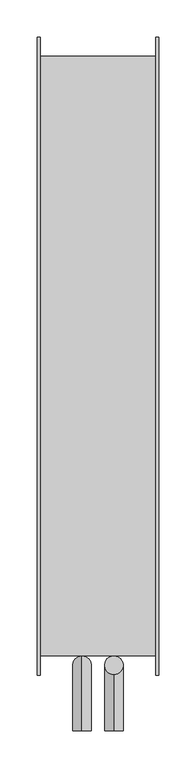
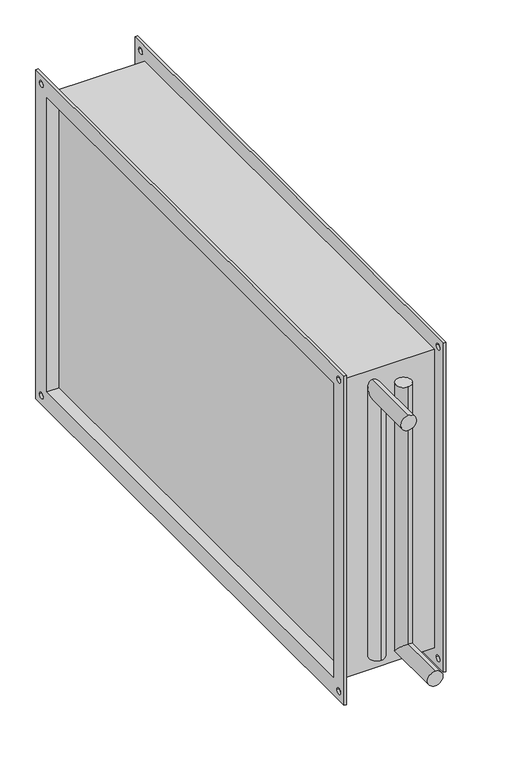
"""IFC4 building model written with IfcOpenShell, lengths in millimetres: proxy geometry, СВ_ВоздухонагревательВодяной_КанальныйПрямоугольный_200-1000_SPH-W : SPH-W-800x500/2."""

from ifc_helpers import new_model, si_unit, frame, origin, place, context, project, spatial, polyline, circle_curve, ellipse_curve, source, transform, mapped, element, save
from ifc_brep_helpers import plane_surface, cylinder_surface, revolved_surface, advanced_brep


def mechanical_equipment_5d4a23c0(model_context):
    return source(origin(), model_context, "Body", "AdvancedBrep", [
        advanced_brep(
        [(21.5, -404.0, 225.0), (21.5, -429.0, 225.0), (21.5, -404.0, -237.5), (21.5, -429.0, -212.5), (21.5, -505.0, -237.5), (21.5, -505.0, -212.5)],
        [
            (0, 1, circle_curve(frame((21.5, -416.5, 225.0), z_axis=(0.0, 0.0, 1.0), x_axis=(0.0, -1.0, 0.0)), 12.5)),
            (1, 0, circle_curve(frame((21.5, -416.5, 225.0), z_axis=(0.0, 0.0, 1.0), x_axis=(0.0, -1.0, 0.0)), 12.5)),
            (0, 2),
            (2, 3, ellipse_curve(frame((21.5, -416.5, -225.0), z_axis=(0.0, 0.7071067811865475, 0.7071067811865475), x_axis=(0.0, -0.7071067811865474, 0.7071067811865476)), 17.6776695, 12.5)),
            (3, 1),
            (3, 2, ellipse_curve(frame((21.5, -416.5, -225.0), z_axis=(0.0, 0.7071067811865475, 0.7071067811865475), x_axis=(0.0, -0.7071067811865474, 0.7071067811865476)), 17.6776695, 12.5)),
            (4, 5, circle_curve(frame((21.5, -505.0, -225.0), z_axis=(0.0, -1.0, 0.0), x_axis=(0.0, 0.0, 1.0)), 12.5)),
            (5, 4, circle_curve(frame((21.5, -505.0, -225.0), z_axis=(0.0, -1.0, 0.0), x_axis=(0.0, 0.0, 1.0)), 12.5)),
            (2, 4),
            (5, 3),
        ],
        [
            plane_surface(frame((21.5, -416.5, 225.0), z_axis=(0.0, 0.0, 1.0), x_axis=(-1.0, 0.0, 0.0))),
            cylinder_surface(frame((21.5, -416.5, 225.0), z_axis=(0.0, 0.0, 1.0), x_axis=(0.0, -1.0, 0.0)), 12.5),
            plane_surface(frame((21.5, -505.0, -225.0), z_axis=(0.0, -1.0, 0.0), x_axis=(-1.0, 0.0, 0.0))),
            cylinder_surface(frame((21.5, -416.5, -225.0), z_axis=(0.0, 1.0, 0.0), x_axis=(0.0, 0.0, 1.0)), 12.5),
        ],
        [
            (0, [[1, 2]]),
            (1, [[-1, 3, 4, 5]]),
            (1, [[-2, -5, 6, -3]]),
            (2, [[7, 8]]),
            (3, [[-4, 9, -8, 10]]),
            (3, [[-6, -10, -7, -9]]),
        ],
    ),
        advanced_brep(
        [(-21.5, -404.0, -225.0), (-21.5, -429.0, -225.0), (-21.5, -404.0, 237.5), (-21.5, -429.0, 212.5), (-21.5, -505.0, 237.5), (-21.5, -505.0, 212.5)],
        [
            (0, 1, circle_curve(frame((-21.5, -416.5, -225.0), z_axis=(0.0, 0.0, -1.0), x_axis=(0.0, -1.0, 0.0)), 12.5)),
            (1, 0, circle_curve(frame((-21.5, -416.5, -225.0), z_axis=(0.0, 0.0, -1.0), x_axis=(0.0, -1.0, 0.0)), 12.5)),
            (0, 2),
            (2, 3, ellipse_curve(frame((-21.5, -416.5, 225.0), z_axis=(0.0, 0.7071067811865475, -0.7071067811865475), x_axis=(0.0, -0.7071067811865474, -0.7071067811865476)), 17.6776695, 12.5)),
            (3, 1),
            (3, 2, ellipse_curve(frame((-21.5, -416.5, 225.0), z_axis=(0.0, 0.7071067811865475, -0.7071067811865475), x_axis=(0.0, -0.7071067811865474, -0.7071067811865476)), 17.6776695, 12.5)),
            (4, 5, circle_curve(frame((-21.5, -505.0, 225.0), z_axis=(0.0, -1.0, 0.0), x_axis=(0.0, 0.0, -1.0)), 12.5)),
            (5, 4, circle_curve(frame((-21.5, -505.0, 225.0), z_axis=(0.0, -1.0, 0.0), x_axis=(0.0, 0.0, -1.0)), 12.5)),
            (2, 4),
            (5, 3),
        ],
        [
            plane_surface(frame((-21.5, -416.5, -225.0), z_axis=(0.0, 0.0, -1.0), x_axis=(1.0, 0.0, 0.0))),
            cylinder_surface(frame((-21.5, -416.5, -225.0), z_axis=(0.0, 0.0, -1.0), x_axis=(0.0, -1.0, 0.0)), 12.5),
            plane_surface(frame((-21.5, -505.0, 225.0), z_axis=(0.0, -1.0, 0.0), x_axis=(1.0, 0.0, 0.0))),
            cylinder_surface(frame((-21.5, -416.5, 225.0), z_axis=(0.0, 1.0, 0.0), x_axis=(0.0, 0.0, -1.0)), 12.5),
        ],
        [
            (0, [[1, 2]]),
            (1, [[-1, 3, 4, 5]]),
            (1, [[-2, -5, 6, -3]]),
            (2, [[7, 8]]),
            (3, [[-4, 9, -8, 10]]),
            (3, [[-6, -10, -7, -9]]),
        ],
    ),
        advanced_brep(
        [(-78.0, -404.0, 254.0), (-78.0, -404.0, -254.0), (78.0, -404.0, -254.0), (78.0, -404.0, 254.0), (-78.0, 404.0, -254.0), (78.0, 404.0, -254.0), (-78.0, 404.0, 254.0), (78.0, 404.0, 254.0), (62.0, 400.0, -250.0), (62.0, 400.0, 250.0), (62.0, -400.0, 250.0), (62.0, -400.0, -250.0), (-62.0, -400.0, 250.0), (-62.0, 400.0, 250.0), (-62.0, 400.0, -250.0), (-62.0, -400.0, -250.0), (-82.0, -430.0, 280.0), (-82.0, 430.0, 280.0), (-82.0, 430.0, -280.0), (-82.0, -430.0, -280.0), (-82.0, -400.0, 250.0), (-82.0, -400.0, -250.0), (-82.0, 400.0, -250.0), (-82.0, 400.0, 250.0), (-82.0, 410.0, 265.0), (-82.0, 420.0, 265.0), (-82.0, -420.0, 265.0), (-82.0, -410.0, 265.0), (-82.0, -420.0, -265.0), (-82.0, -410.0, -265.0), (-82.0, 410.0, -265.0), (-82.0, 420.0, -265.0), (-78.0, -430.0, 280.0), (-78.0, -430.0, -280.0), (-78.0, 430.0, -280.0), (-78.0, 430.0, 280.0), (-78.0, 420.0, 265.0), (-78.0, 410.0, 265.0), (-78.0, -410.0, 265.0), (-78.0, -420.0, 265.0), (-78.0, -410.0, -265.0), (-78.0, -420.0, -265.0), (-78.0, 420.0, -265.0), (-78.0, 410.0, -265.0), (78.0, 430.0, 280.0), (78.0, 430.0, -280.0), (78.0, -430.0, -280.0), (78.0, -430.0, 280.0), (78.0, 410.0, 265.0), (78.0, 420.0, 265.0), (78.0, -420.0, 265.0), (78.0, -410.0, 265.0), (78.0, -420.0, -265.0), (78.0, -410.0, -265.0), (78.0, 410.0, -265.0), (78.0, 420.0, -265.0), (82.0, 430.0, 280.0), (82.0, -430.0, 280.0), (82.0, -430.0, -280.0), (82.0, 430.0, -280.0), (82.0, 400.0, 250.0), (82.0, 400.0, -250.0), (82.0, -400.0, -250.0), (82.0, -400.0, 250.0), (82.0, 420.0, 265.0), (82.0, 410.0, 265.0), (82.0, -410.0, 265.0), (82.0, -420.0, 265.0), (82.0, -410.0, -265.0), (82.0, -420.0, -265.0), (82.0, 420.0, -265.0), (82.0, 410.0, -265.0)],
        [
            (0, 1),
            (1, 2),
            (2, 3),
            (3, 0),
            (1, 4),
            (4, 5),
            (5, 2),
            (4, 6),
            (6, 7),
            (7, 5),
            (6, 0),
            (3, 7),
            (8, 9),
            (9, 10),
            (10, 11),
            (11, 8),
            (12, 13),
            (13, 14),
            (14, 15),
            (15, 12),
            (16, 17),
            (17, 18),
            (18, 19),
            (19, 16),
            (20, 21),
            (21, 22),
            (22, 23),
            (23, 20),
            (24, 25, circle_curve(frame((-82.0, 415.0, 265.0), z_axis=(1.0, 0.0, 0.0), x_axis=(0.0, -1.0, 0.0)), 5.0)),
            (25, 24, circle_curve(frame((-82.0, 415.0, 265.0), z_axis=(1.0, 0.0, 0.0), x_axis=(0.0, -1.0, 0.0)), 5.0)),
            (26, 27, circle_curve(frame((-82.0, -415.0, 265.0), z_axis=(1.0, 0.0, 0.0), x_axis=(0.0, -1.0, 0.0)), 5.0)),
            (27, 26, circle_curve(frame((-82.0, -415.0, 265.0), z_axis=(1.0, 0.0, 0.0), x_axis=(0.0, -1.0, 0.0)), 5.0)),
            (28, 29, circle_curve(frame((-82.0, -415.0, -265.0), z_axis=(1.0, 0.0, 0.0), x_axis=(0.0, -1.0, 0.0)), 5.0)),
            (29, 28, circle_curve(frame((-82.0, -415.0, -265.0), z_axis=(1.0, 0.0, 0.0), x_axis=(0.0, -1.0, 0.0)), 5.0)),
            (30, 31, circle_curve(frame((-82.0, 415.0, -265.0), z_axis=(1.0, 0.0, 0.0), x_axis=(0.0, -1.0, 0.0)), 5.0)),
            (31, 30, circle_curve(frame((-82.0, 415.0, -265.0), z_axis=(1.0, 0.0, 0.0), x_axis=(0.0, -1.0, 0.0)), 5.0)),
            (32, 33),
            (33, 34),
            (34, 35),
            (35, 32),
            (36, 37, circle_curve(frame((-78.0, 415.0, 265.0), z_axis=(-1.0, 0.0, 0.0), x_axis=(0.0, -1.0, 0.0)), 5.0)),
            (37, 36, circle_curve(frame((-78.0, 415.0, 265.0), z_axis=(-1.0, 0.0, 0.0), x_axis=(0.0, -1.0, 0.0)), 5.0)),
            (38, 39, circle_curve(frame((-78.0, -415.0, 265.0), z_axis=(-1.0, 0.0, 0.0), x_axis=(0.0, -1.0, 0.0)), 5.0)),
            (39, 38, circle_curve(frame((-78.0, -415.0, 265.0), z_axis=(-1.0, 0.0, 0.0), x_axis=(0.0, -1.0, 0.0)), 5.0)),
            (40, 41, circle_curve(frame((-78.0, -415.0, -265.0), z_axis=(-1.0, 0.0, 0.0), x_axis=(0.0, -1.0, 0.0)), 5.0)),
            (41, 40, circle_curve(frame((-78.0, -415.0, -265.0), z_axis=(-1.0, 0.0, 0.0), x_axis=(0.0, -1.0, 0.0)), 5.0)),
            (42, 43, circle_curve(frame((-78.0, 415.0, -265.0), z_axis=(-1.0, 0.0, 0.0), x_axis=(0.0, -1.0, 0.0)), 5.0)),
            (43, 42, circle_curve(frame((-78.0, 415.0, -265.0), z_axis=(-1.0, 0.0, 0.0), x_axis=(0.0, -1.0, 0.0)), 5.0)),
            (19, 33),
            (32, 16),
            (18, 34),
            (17, 35),
            (44, 45),
            (45, 46),
            (46, 47),
            (47, 44),
            (48, 49, circle_curve(frame((78.0, 415.0, 265.0), z_axis=(1.0, 0.0, 0.0), x_axis=(0.0, -1.0, 0.0)), 5.0)),
            (49, 48, circle_curve(frame((78.0, 415.0, 265.0), z_axis=(1.0, 0.0, 0.0), x_axis=(0.0, -1.0, 0.0)), 5.0)),
            (50, 51, circle_curve(frame((78.0, -415.0, 265.0), z_axis=(1.0, 0.0, 0.0), x_axis=(0.0, -1.0, 0.0)), 5.0)),
            (51, 50, circle_curve(frame((78.0, -415.0, 265.0), z_axis=(1.0, 0.0, 0.0), x_axis=(0.0, -1.0, 0.0)), 5.0)),
            (52, 53, circle_curve(frame((78.0, -415.0, -265.0), z_axis=(1.0, 0.0, 0.0), x_axis=(0.0, -1.0, 0.0)), 5.0)),
            (53, 52, circle_curve(frame((78.0, -415.0, -265.0), z_axis=(1.0, 0.0, 0.0), x_axis=(0.0, -1.0, 0.0)), 5.0)),
            (54, 55, circle_curve(frame((78.0, 415.0, -265.0), z_axis=(1.0, 0.0, 0.0), x_axis=(0.0, -1.0, 0.0)), 5.0)),
            (55, 54, circle_curve(frame((78.0, 415.0, -265.0), z_axis=(1.0, 0.0, 0.0), x_axis=(0.0, -1.0, 0.0)), 5.0)),
            (56, 57),
            (57, 58),
            (58, 59),
            (59, 56),
            (60, 61),
            (61, 62),
            (62, 63),
            (63, 60),
            (64, 65, circle_curve(frame((82.0, 415.0, 265.0), z_axis=(-1.0, 0.0, 0.0), x_axis=(0.0, -1.0, 0.0)), 5.0)),
            (65, 64, circle_curve(frame((82.0, 415.0, 265.0), z_axis=(-1.0, 0.0, 0.0), x_axis=(0.0, -1.0, 0.0)), 5.0)),
            (66, 67, circle_curve(frame((82.0, -415.0, 265.0), z_axis=(-1.0, 0.0, 0.0), x_axis=(0.0, -1.0, 0.0)), 5.0)),
            (67, 66, circle_curve(frame((82.0, -415.0, 265.0), z_axis=(-1.0, 0.0, 0.0), x_axis=(0.0, -1.0, 0.0)), 5.0)),
            (68, 69, circle_curve(frame((82.0, -415.0, -265.0), z_axis=(-1.0, 0.0, 0.0), x_axis=(0.0, -1.0, 0.0)), 5.0)),
            (69, 68, circle_curve(frame((82.0, -415.0, -265.0), z_axis=(-1.0, 0.0, 0.0), x_axis=(0.0, -1.0, 0.0)), 5.0)),
            (70, 71, circle_curve(frame((82.0, 415.0, -265.0), z_axis=(-1.0, 0.0, 0.0), x_axis=(0.0, -1.0, 0.0)), 5.0)),
            (71, 70, circle_curve(frame((82.0, 415.0, -265.0), z_axis=(-1.0, 0.0, 0.0), x_axis=(0.0, -1.0, 0.0)), 5.0)),
            (47, 57),
            (56, 44),
            (46, 58),
            (45, 59),
            (23, 13),
            (12, 20),
            (22, 14),
            (21, 15),
            (60, 9),
            (8, 61),
            (11, 62),
            (10, 63),
            (36, 25),
            (24, 37),
            (64, 49),
            (48, 65),
            (38, 27),
            (26, 39),
            (66, 51),
            (50, 67),
            (40, 29),
            (28, 41),
            (68, 53),
            (52, 69),
            (42, 31),
            (30, 43),
            (70, 55),
            (54, 71),
        ],
        [
            plane_surface(frame((-62.0, -404.0, 254.0), z_axis=(0.0, -1.0, 0.0), x_axis=(-1.0, 0.0, 0.0))),
            plane_surface(frame((-62.0, -404.0, -254.0), z_axis=(0.0, 0.0, -1.0), x_axis=(-1.0, 0.0, 0.0))),
            plane_surface(frame((-62.0, 404.0, -254.0), z_axis=(0.0, 1.0, 0.0), x_axis=(-1.0, 0.0, 0.0))),
            plane_surface(frame((-62.0, 404.0, 254.0), z_axis=(0.0, 0.0, 1.0), x_axis=(-1.0, 0.0, 0.0))),
            plane_surface(frame((62.0, -404.0, 254.0), z_axis=(1.0, 0.0, 0.0), x_axis=(0.0, 0.0, -1.0))),
            plane_surface(frame((-62.0, -404.0, 254.0), z_axis=(-1.0, 0.0, 0.0), x_axis=(0.0, 0.0, 1.0))),
            plane_surface(frame((-82.0, -430.0, 280.0), z_axis=(-1.0, 0.0, 0.0), x_axis=(0.0, 0.0, 1.0))),
            plane_surface(frame((-78.0, -430.0, 280.0), z_axis=(1.0, 0.0, 0.0), x_axis=(0.0, 0.0, -1.0))),
            plane_surface(frame((-78.0, -430.0, 280.0), z_axis=(0.0, -1.0, 0.0), x_axis=(-1.0, 0.0, 0.0))),
            plane_surface(frame((-78.0, -430.0, -280.0), z_axis=(0.0, 0.0, -1.0), x_axis=(-1.0, 0.0, 0.0))),
            plane_surface(frame((-78.0, 430.0, -280.0), z_axis=(0.0, 1.0, 0.0), x_axis=(-1.0, 0.0, 0.0))),
            plane_surface(frame((-78.0, 430.0, 280.0), z_axis=(0.0, 0.0, 1.0), x_axis=(-1.0, 0.0, 0.0))),
            plane_surface(frame((78.0, 400.0, -250.0), z_axis=(-1.0, 0.0, 0.0), x_axis=(0.0, 0.0, 1.0))),
            plane_surface(frame((82.0, 400.0, -250.0), z_axis=(1.0, 0.0, 0.0), x_axis=(0.0, 0.0, -1.0))),
            plane_surface(frame((82.0, 430.0, 280.0), z_axis=(0.0, 0.0, 1.0), x_axis=(-1.0, 0.0, 0.0))),
            plane_surface(frame((82.0, -430.0, 280.0), z_axis=(0.0, -1.0, 0.0), x_axis=(-1.0, 0.0, 0.0))),
            plane_surface(frame((82.0, -430.0, -280.0), z_axis=(0.0, 0.0, -1.0), x_axis=(-1.0, 0.0, 0.0))),
            plane_surface(frame((82.0, 430.0, -280.0), z_axis=(0.0, 1.0, 0.0), x_axis=(-1.0, 0.0, 0.0))),
            plane_surface(frame((-78.0, -400.0, 250.0), z_axis=(0.0, 0.0, -1.0), x_axis=(-1.0, 0.0, 0.0))),
            plane_surface(frame((-78.0, 400.0, 250.0), z_axis=(0.0, -1.0, 0.0), x_axis=(-1.0, 0.0, 0.0))),
            plane_surface(frame((-78.0, 400.0, -250.0), z_axis=(0.0, 0.0, 1.0), x_axis=(-1.0, 0.0, 0.0))),
            plane_surface(frame((-78.0, -400.0, -250.0), z_axis=(0.0, 1.0, 0.0), x_axis=(-1.0, 0.0, 0.0))),
            plane_surface(frame((82.0, 400.0, 250.0), z_axis=(0.0, -1.0, 0.0), x_axis=(-1.0, 0.0, 0.0))),
            plane_surface(frame((82.0, 400.0, -250.0), z_axis=(0.0, 0.0, 1.0), x_axis=(-1.0, 0.0, 0.0))),
            plane_surface(frame((82.0, -400.0, -250.0), z_axis=(0.0, 1.0, 0.0), x_axis=(-1.0, 0.0, 0.0))),
            plane_surface(frame((82.0, -400.0, 250.0), z_axis=(0.0, 0.0, -1.0), x_axis=(-1.0, 0.0, 0.0))),
            revolved_surface(polyline([(-82.0, 410.0, 265.0), (-78.0, 410.0, 265.0)]), (82.0, 415.0, 265.0), (-1.0, 0.0, 0.0)),
            revolved_surface(polyline([(78.0, 410.0, 265.0), (82.0, 410.0, 265.0)]), (82.0, 415.0, 265.0), (-1.0, 0.0, 0.0)),
            revolved_surface(polyline([(-82.0, -420.0, 265.0), (-78.0, -420.0, 265.0)]), (21.5, -415.0, 265.0), (-1.0, 0.0, 0.0)),
            revolved_surface(polyline([(78.0, -420.0, 265.0), (82.0, -420.0, 265.0)]), (21.5, -415.0, 265.0), (-1.0, 0.0, 0.0)),
            revolved_surface(polyline([(-82.0, -420.0, -265.0), (-78.0, -420.0, -265.0)]), (21.5, -415.0, -265.0), (-1.0, 0.0, 0.0)),
            revolved_surface(polyline([(78.0, -420.0, -265.0), (82.0, -420.0, -265.0)]), (21.5, -415.0, -265.0), (-1.0, 0.0, 0.0)),
            revolved_surface(polyline([(-82.0, 410.0, -265.0), (-78.0, 410.0, -265.0)]), (21.5, 415.0, -265.0), (-1.0, 0.0, 0.0)),
            revolved_surface(polyline([(78.0, 410.0, -265.0), (82.0, 410.0, -265.0)]), (21.5, 415.0, -265.0), (-1.0, 0.0, 0.0)),
        ],
        [
            (0, [[1, 2, 3, 4]]),
            (1, [[-2, 5, 6, 7]]),
            (2, [[-6, 8, 9, 10]]),
            (3, [[-9, 11, -4, 12]]),
            (4, [[13, 14, 15, 16]]),
            (5, [[17, 18, 19, 20]]),
            (6, [[21, 22, 23, 24], [25, 26, 27, 28], [29, 30], [31, 32], [33, 34], [35, 36]]),
            (7, [[37, 38, 39, 40], [-1, -11, -8, -5], [41, 42], [43, 44], [45, 46], [47, 48]]),
            (8, [[-24, 49, -37, 50]]),
            (9, [[-23, 51, -38, -49]]),
            (10, [[-22, 52, -39, -51]]),
            (11, [[-21, -50, -40, -52]]),
            (12, [[53, 54, 55, 56], [-3, -7, -10, -12], [57, 58], [59, 60], [61, 62], [63, 64]]),
            (13, [[65, 66, 67, 68], [69, 70, 71, 72], [73, 74], [75, 76], [77, 78], [79, 80]]),
            (14, [[-56, 81, -65, 82]]),
            (15, [[-55, 83, -66, -81]]),
            (16, [[-54, 84, -67, -83]]),
            (17, [[-53, -82, -68, -84]]),
            (18, [[-28, 85, -17, 86]]),
            (19, [[-27, 87, -18, -85]]),
            (20, [[-26, 88, -19, -87]]),
            (21, [[-25, -86, -20, -88]]),
            (22, [[-69, 89, -13, 90]]),
            (23, [[-70, -90, -16, 91]]),
            (24, [[-71, -91, -15, 92]]),
            (25, [[-89, -72, -92, -14]]),
            (26, [[93, -29, 94, -41]]),
            (27, [[95, -57, 96, -73]]),
            (26, [[-93, -42, -94, -30]]),
            (27, [[-95, -74, -96, -58]]),
            (28, [[97, -31, 98, -43]]),
            (29, [[99, -59, 100, -75]]),
            (28, [[-97, -44, -98, -32]]),
            (29, [[-99, -76, -100, -60]]),
            (30, [[101, -33, 102, -45]]),
            (31, [[103, -61, 104, -77]]),
            (30, [[-101, -46, -102, -34]]),
            (31, [[-103, -78, -104, -62]]),
            (32, [[105, -35, 106, -47]]),
            (33, [[107, -63, 108, -79]]),
            (32, [[-105, -48, -106, -36]]),
            (33, [[-107, -80, -108, -64]]),
        ],
    ),
    ])


if __name__ == "__main__":
    model = new_model("IFC4")
    model_context = context("Model", 3, world=origin())
    ifc_project = project(units=[si_unit("LENGTHUNIT", "METRE", prefix="MILLI")], contexts=[model_context])
    site = spatial("IfcSite", under=ifc_project)
    building = spatial("IfcBuilding", under=site)
    placement = place(None, origin())
    mechanical_equipment_shape = mechanical_equipment_5d4a23c0(model_context)
    element("IfcBuildingElementProxy", 1, Name="СВ_ВоздухонагревательВодяной_КанальныйПрямоугольный_200-1000_SPH-W : SPH-W-800x500/2", ObjectType="СВ_ВоздухонагревательВодяной_КанальныйПрямоугольный_200-1000_SPH-W : SPH-W-800x500/2", at=placement, inside=building, context=model_context, shape_type="MappedRepresentation", body=[
        mapped(mechanical_equipment_shape, transform((0.0, 0.0, 0.0), x_axis=(1.0, 0.0, 0.0), y_axis=(0.0, 1.0, 0.0), z_axis=(0.0, 0.0, 1.0))),
    ])
    save(model, "model.ifc")
